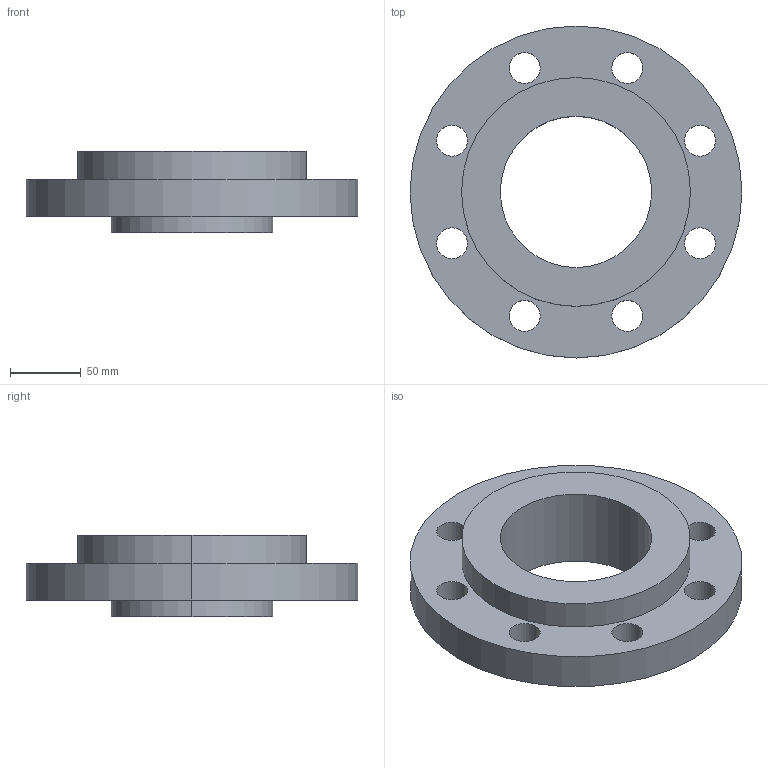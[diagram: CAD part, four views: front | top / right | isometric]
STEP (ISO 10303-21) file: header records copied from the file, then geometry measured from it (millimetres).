
FILE_DESCRIPTION (( 'STEP AP214' ), '1' );
FILE_NAME ('PN40 DN100 Type 04 in 34 - (Type A Face).STEP', '2019-01-02T00:27:14', ( '' ), ( '' ), 'SwSTEP 2.0', 'SolidWorks 2019', '' );
FILE_SCHEMA (( 'AUTOMOTIVE_DESIGN' ));
Length unit declared in the file: millimetre
Products named in the file (1): PN40 DN100 Type 04 in 34 - (Type A Face)
Bounding box: 235 x 235 x 58 mm (x, y, z)
Volume: 952016.5 mm3; surface area: 158529.8 mm2
Topology: 2 solids, 2 shells, 37 faces, 90 edges, 58 vertices
Faces by surface type: cylinder 26, cone 6, plane 5
Entity records: 1197 total; most frequent: DIRECTION 224, CARTESIAN_POINT 186, ORIENTED_EDGE 180, AXIS2_PLACEMENT_3D 96, EDGE_CURVE 90, CIRCLE 58, VERTEX_POINT 58, EDGE_LOOP 58
